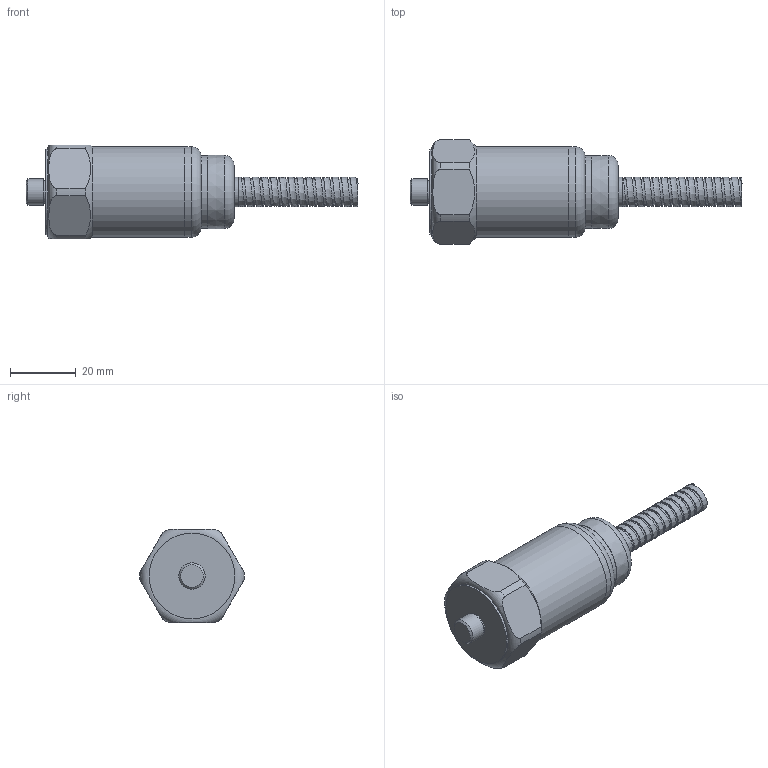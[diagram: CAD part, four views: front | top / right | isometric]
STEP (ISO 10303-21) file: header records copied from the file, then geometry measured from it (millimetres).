
FILE_DESCRIPTION(/* description */ (''),/* implementation_level */ '2;1');
FILE_NAME(/* name */ 'Z:\Engineering\Drawings\3D Library\Assemblies\Website\420 Velocity Top\HS-420XXX30C08.stp',/* time_stamp */ '2023-05-03T15:09:16+01:00',/* author */ ('Ricardo.Peneda'),/* organization */ (''),/* preprocessor_version */ 'ST-DEVELOPER v18.1',/* originating_system */ 'Autodesk Inventor 2021',/* authorisation */ '');
FILE_SCHEMA (('AUTOMOTIVE_DESIGN { 1 0 10303 214 3 1 1 }'));
Length unit declared in the file: inch
Products named in the file (1): HS-420XXX30C08_Shrinkwrap_1
Bounding box: 100.75 x 31.69 x 28.5 mm (x, y, z)
Volume: 14547.5 mm3; surface area: 14949.2 mm2
Topology: 5 solids, 5 shells, 89 faces, 238 edges, 168 vertices
Faces by surface type: cone 29, plane 26, cylinder 22, bspline 8, torus 4
Full cylindrical faces by diameter (mm): 5 x1, 6.3 x1, 6.35 x1, 6.8 x1, 7 x1, 7.5 x1, 8 x1, 9 x1, 20 x1, 22 x1, 23.3 x1, 25.3 x2, 26 x1, 27.5 x2
Entity records: 17114 total; most frequent: CARTESIAN_POINT 14660, DIRECTION 512, ORIENTED_EDGE 476, EDGE_CURVE 238, AXIS2_PLACEMENT_3D 222, VERTEX_POINT 168, CIRCLE 140, EDGE_LOOP 102
